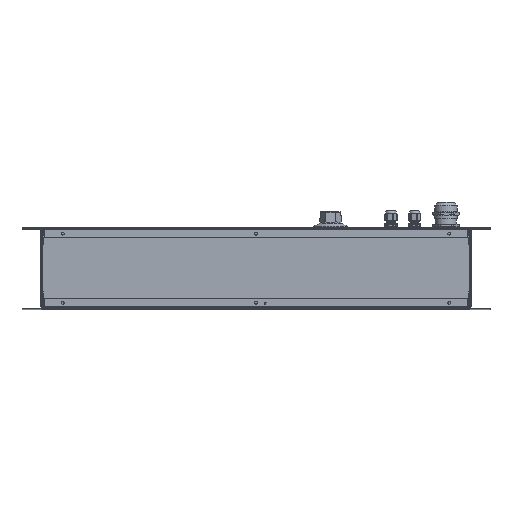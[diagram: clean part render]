
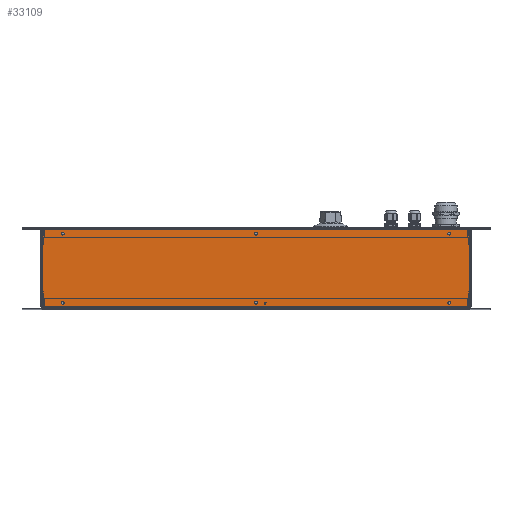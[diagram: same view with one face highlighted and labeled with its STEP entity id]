
A CAD part, top view. The second image highlights one B-rep face of the part: STEP entity #33109.
In plain terms, the highlighted planar face has unit normal (0, 0, 1).
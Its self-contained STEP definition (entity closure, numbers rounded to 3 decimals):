
#1835=LINE('',#54009,#4052);
#1836=LINE('',#54012,#4053);
#1837=LINE('',#54014,#4054);
#1838=LINE('',#54015,#4055);
#4052=VECTOR('',#43538,63.05);
#4053=VECTOR('',#43541,11.4);
#4054=VECTOR('',#43542,11.4);
#4055=VECTOR('',#43543,63.05);
#7026=PLANE('',#36168);
#8350=FACE_BOUND('',#13238,.T.);
#8351=FACE_BOUND('',#13239,.T.);
#8352=FACE_BOUND('',#13240,.T.);
#8353=FACE_BOUND('',#13241,.T.);
#8354=FACE_BOUND('',#13242,.T.);
#8355=FACE_BOUND('',#13243,.T.);
#10201=FACE_OUTER_BOUND('',#13237,.T.);
#13237=EDGE_LOOP('',(#28125,#28126,#28127,#28128));
#13238=EDGE_LOOP('',(#28129));
#13239=EDGE_LOOP('',(#28130));
#13240=EDGE_LOOP('',(#28131));
#13241=EDGE_LOOP('',(#28132));
#13242=EDGE_LOOP('',(#28133));
#13243=EDGE_LOOP('',(#28134));
#15277=CIRCLE('',#36169,0.21);
#15278=CIRCLE('',#36170,0.21);
#15279=CIRCLE('',#36171,0.21);
#15280=CIRCLE('',#36172,0.21);
#15281=CIRCLE('',#36173,0.21);
#15282=CIRCLE('',#36174,0.21);
#17827=VERTEX_POINT('',#54003);
#17828=VERTEX_POINT('',#54007);
#17829=VERTEX_POINT('',#54011);
#17830=VERTEX_POINT('',#54013);
#17831=VERTEX_POINT('',#54016);
#17832=VERTEX_POINT('',#54018);
#17833=VERTEX_POINT('',#54020);
#17834=VERTEX_POINT('',#54022);
#17835=VERTEX_POINT('',#54024);
#17836=VERTEX_POINT('',#54026);
#21518=EDGE_CURVE('',#17828,#17827,#1835,.T.);
#21519=EDGE_CURVE('',#17829,#17827,#1836,.T.);
#21520=EDGE_CURVE('',#17828,#17830,#1837,.T.);
#21521=EDGE_CURVE('',#17829,#17830,#1838,.T.);
#21522=EDGE_CURVE('',#17831,#17831,#15277,.T.);
#21523=EDGE_CURVE('',#17832,#17832,#15278,.T.);
#21524=EDGE_CURVE('',#17833,#17833,#15279,.T.);
#21525=EDGE_CURVE('',#17834,#17834,#15280,.T.);
#21526=EDGE_CURVE('',#17835,#17835,#15281,.T.);
#21527=EDGE_CURVE('',#17836,#17836,#15282,.T.);
#28125=ORIENTED_EDGE('',*,*,#21519,.T.);
#28126=ORIENTED_EDGE('',*,*,#21518,.F.);
#28127=ORIENTED_EDGE('',*,*,#21520,.T.);
#28128=ORIENTED_EDGE('',*,*,#21521,.F.);
#28129=ORIENTED_EDGE('',*,*,#21522,.T.);
#28130=ORIENTED_EDGE('',*,*,#21523,.T.);
#28131=ORIENTED_EDGE('',*,*,#21524,.T.);
#28132=ORIENTED_EDGE('',*,*,#21525,.T.);
#28133=ORIENTED_EDGE('',*,*,#21526,.T.);
#28134=ORIENTED_EDGE('',*,*,#21527,.T.);
#33109=ADVANCED_FACE('',(#10201,#8350,#8351,#8352,#8353,#8354,#8355),#7026,
 .T.);
#36168=AXIS2_PLACEMENT_3D('',#54010,#43539,#43540);
#36169=AXIS2_PLACEMENT_3D('',#54017,#43544,#43545);
#36170=AXIS2_PLACEMENT_3D('',#54019,#43546,#43547);
#36171=AXIS2_PLACEMENT_3D('',#54021,#43548,#43549);
#36172=AXIS2_PLACEMENT_3D('',#54023,#43550,#43551);
#36173=AXIS2_PLACEMENT_3D('',#54025,#43552,#43553);
#36174=AXIS2_PLACEMENT_3D('',#54027,#43554,#43555);
#43538=DIRECTION('',(-1.,0.,0.));
#43539=DIRECTION('center_axis',(0.,0.,1.));
#43540=DIRECTION('ref_axis',(1.,0.,0.));
#43541=DIRECTION('',(0.,-1.,0.));
#43542=DIRECTION('',(0.,1.,0.));
#43543=DIRECTION('',(1.,0.,0.));
#43544=DIRECTION('center_axis',(0.,0.,-1.));
#43545=DIRECTION('ref_axis',(1.,0.,0.));
#43546=DIRECTION('center_axis',(0.,0.,-1.));
#43547=DIRECTION('ref_axis',(1.,0.,0.));
#43548=DIRECTION('center_axis',(0.,0.,-1.));
#43549=DIRECTION('ref_axis',(1.,0.,0.));
#43550=DIRECTION('center_axis',(0.,0.,-1.));
#43551=DIRECTION('ref_axis',(1.,0.,0.));
#43552=DIRECTION('center_axis',(0.,0.,-1.));
#43553=DIRECTION('ref_axis',(1.,0.,0.));
#43554=DIRECTION('center_axis',(0.,0.,-1.));
#43555=DIRECTION('ref_axis',(1.,0.,0.));
#54003=CARTESIAN_POINT('',(-31.525,-5.7,10.125));
#54007=CARTESIAN_POINT('',(31.525,-5.7,10.125));
#54009=CARTESIAN_POINT('',(31.65,-5.7,10.125));
#54010=CARTESIAN_POINT('Origin',(0.,0.,
10.125));
#54011=CARTESIAN_POINT('',(-31.525,5.7,10.125));
#54012=CARTESIAN_POINT('',(-31.525,2.85,10.125));
#54013=CARTESIAN_POINT('',(31.525,5.7,10.125));
#54014=CARTESIAN_POINT('',(31.525,-2.85,10.125));
#54015=CARTESIAN_POINT('',(-31.65,5.7,10.125));
#54016=CARTESIAN_POINT('',(-0.21,-5.1,10.125));
#54017=CARTESIAN_POINT('Origin',(0.,-5.1,
10.125));
#54018=CARTESIAN_POINT('',(-0.21,5.1,10.125));
#54019=CARTESIAN_POINT('Origin',(0.,5.1,10.125));
#54020=CARTESIAN_POINT('',(-28.71,5.1,10.125));
#54021=CARTESIAN_POINT('Origin',(-28.5,5.1,10.125));
#54022=CARTESIAN_POINT('',(28.29,5.1,10.125));
#54023=CARTESIAN_POINT('Origin',(28.5,5.1,10.125));
#54024=CARTESIAN_POINT('',(28.29,-5.1,10.125));
#54025=CARTESIAN_POINT('Origin',(28.5,-5.1,10.125));
#54026=CARTESIAN_POINT('',(-28.71,-5.1,10.125));
#54027=CARTESIAN_POINT('Origin',(-28.5,-5.1,10.125));
